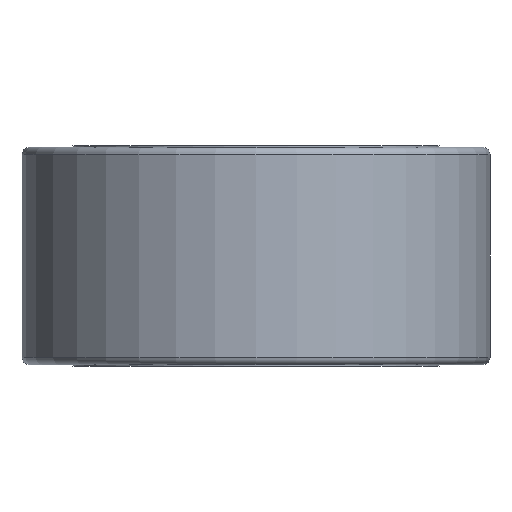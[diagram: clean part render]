
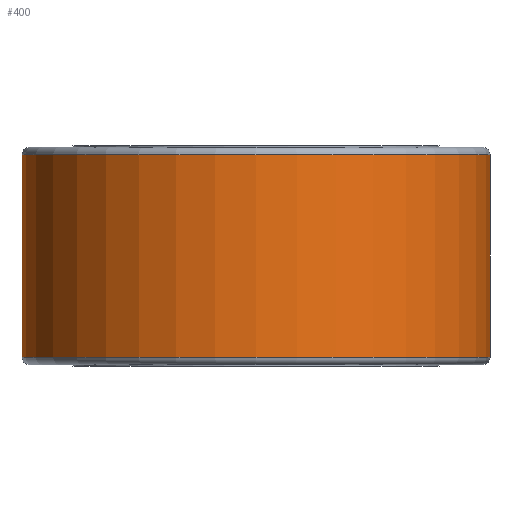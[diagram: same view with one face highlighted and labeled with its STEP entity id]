
A CAD part, front view. The second image highlights one B-rep face of the part: STEP entity #400.
In plain terms, the highlighted cylindrical face has radius 155 mm (diameter 310 mm), a partial arc.
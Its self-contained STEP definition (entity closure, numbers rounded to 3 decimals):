
#9 = EDGE_CURVE ( 'NONE', #142, #571, #185, .T. ) ;
#10 = CARTESIAN_POINT ( 'NONE',  ( 0., 0., 144. ) ) ;
#70 = DIRECTION ( 'NONE',  ( 1., 0., 0. ) ) ;
#74 = CIRCLE ( 'NONE', #98, 155. ) ;
#93 = EDGE_LOOP ( 'NONE', ( #330, #101, #565, #99 ) ) ;
#98 = AXIS2_PLACEMENT_3D ( 'NONE', #254, #215, #70 ) ;
#99 = ORIENTED_EDGE ( 'NONE', *, *, #379, .T. ) ;
#101 = ORIENTED_EDGE ( 'NONE', *, *, #123, .T. ) ;
#103 = CARTESIAN_POINT ( 'NONE',  ( 155., 0., 5. ) ) ;
#108 = CARTESIAN_POINT ( 'NONE',  ( 0., 0., 5. ) ) ;
#112 = DIRECTION ( 'NONE',  ( -1., 0., 0. ) ) ;
#123 = EDGE_CURVE ( 'NONE', #524, #142, #74, .T. ) ;
#142 = VERTEX_POINT ( 'NONE', #464 ) ;
#157 = CARTESIAN_POINT ( 'NONE',  ( -155., 0., 144. ) ) ;
#185 = LINE ( 'NONE', #157, #482 ) ;
#203 = DIRECTION ( 'NONE',  ( 1., 0., 0. ) ) ;
#213 = CARTESIAN_POINT ( 'NONE',  ( 155., 0., 144. ) ) ;
#215 = DIRECTION ( 'NONE',  ( 0., 0., -1. ) ) ;
#221 = AXIS2_PLACEMENT_3D ( 'NONE', #108, #332, #203 ) ;
#254 = CARTESIAN_POINT ( 'NONE',  ( 0., 0., 139. ) ) ;
#281 = VECTOR ( 'NONE', #566, 1000. ) ;
#283 = CYLINDRICAL_SURFACE ( 'NONE', #346, 155. ) ;
#294 = EDGE_CURVE ( 'NONE', #524, #302, #375, .T. ) ;
#302 = VERTEX_POINT ( 'NONE', #103 ) ;
#330 = ORIENTED_EDGE ( 'NONE', *, *, #294, .F. ) ;
#332 = DIRECTION ( 'NONE',  ( 0., 0., 1. ) ) ;
#346 = AXIS2_PLACEMENT_3D ( 'NONE', #10, #519, #112 ) ;
#375 = LINE ( 'NONE', #213, #281 ) ;
#379 = EDGE_CURVE ( 'NONE', #571, #302, #541, .T. ) ;
#400 = ADVANCED_FACE ( 'NONE', ( #458 ), #283, .T. ) ;
#458 = FACE_OUTER_BOUND ( 'NONE', #93, .T. ) ;
#464 = CARTESIAN_POINT ( 'NONE',  ( -155., 0., 139. ) ) ;
#482 = VECTOR ( 'NONE', #570, 1000. ) ;
#519 = DIRECTION ( 'NONE',  ( 0., 0., -1. ) ) ;
#524 = VERTEX_POINT ( 'NONE', #578 ) ;
#539 = CARTESIAN_POINT ( 'NONE',  ( -155., 0., 5. ) ) ;
#541 = CIRCLE ( 'NONE', #221, 155. ) ;
#565 = ORIENTED_EDGE ( 'NONE', *, *, #9, .T. ) ;
#566 = DIRECTION ( 'NONE',  ( 0., 0., -1. ) ) ;
#570 = DIRECTION ( 'NONE',  ( 0., 0., -1. ) ) ;
#571 = VERTEX_POINT ( 'NONE', #539 ) ;
#578 = CARTESIAN_POINT ( 'NONE',  ( 155., 0., 139. ) ) ;
